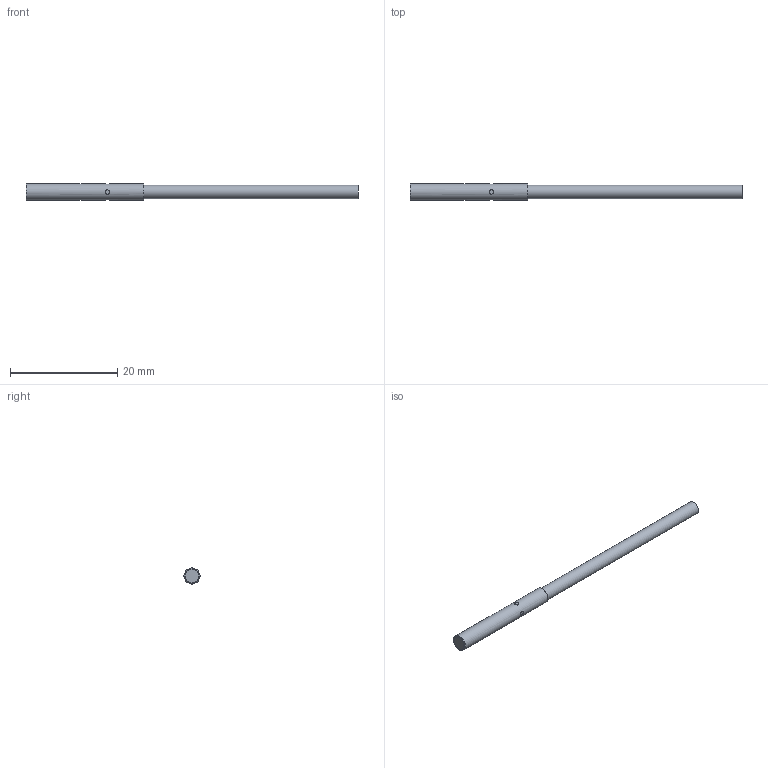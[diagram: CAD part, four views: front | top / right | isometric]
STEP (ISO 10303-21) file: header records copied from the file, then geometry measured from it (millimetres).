
FILE_DESCRIPTION( ( 'Unknown' ), '1' );
FILE_SCHEMA( ( 'AUTOMOTIVE_DESIGN { 1 0 10303 214 1 1 1 1 }' ) );
Length unit declared in the file: millimetre
Products named in the file (4): Assem1; -oa0
Assembly tree (3 placements, depth 2):
  Assem1
    -oa0
    -oa0
    -oa0
Bounding box: 62 x 3 x 3 mm (x, y, z)
Surface area: 543.7 mm2 (no closed solid volume)
Topology: 0 solids, 18 shells, 18 faces, 49 edges, 38 vertices
Faces by surface type: plane 8, cylinder 7, cone 2, torus 1
Full cylindrical faces by diameter (mm): 0.8 x4, 2.5 x1, 2.75 x1, 3 x1
Entity records: 668 total; most frequent: CARTESIAN_POINT 224, DIRECTION 94, AXIS2_PLACEMENT_3D 47, FACE_BOUND 33, EDGE_LOOP 33, ORIENTED_EDGE 33, EDGE_CURVE 33, VERTEX_POINT 33
